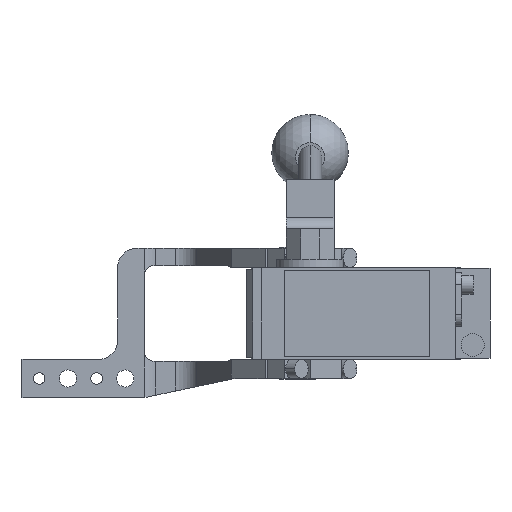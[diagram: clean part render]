
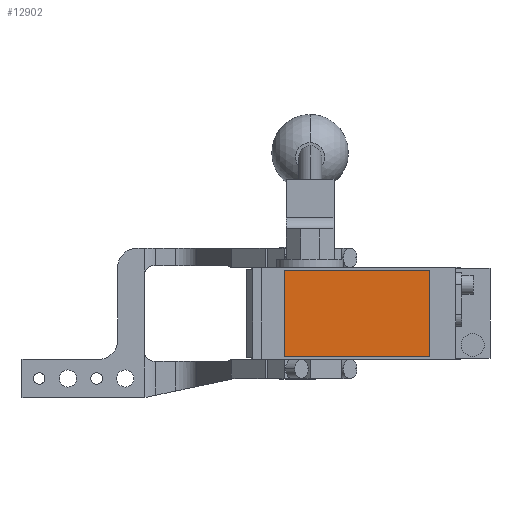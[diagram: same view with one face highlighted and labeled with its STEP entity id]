
A CAD part, front view. The second image highlights one B-rep face of the part: STEP entity #12902.
In plain terms, the highlighted planar face has unit normal (0, -1, 0).
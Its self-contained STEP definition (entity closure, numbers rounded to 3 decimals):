
#209 = CARTESIAN_POINT ( 'NONE',  ( -7., -280.5, -22.5 ) ) ;
#315 = VERTEX_POINT ( 'NONE', #857 ) ;
#554 = AXIS2_PLACEMENT_3D ( 'NONE', #4075, #4156, #13302 ) ;
#727 = PLANE ( 'NONE',  #554 ) ;
#857 = CARTESIAN_POINT ( 'NONE',  ( -7., -280.5, -22.5 ) ) ;
#1299 = VECTOR ( 'NONE', #3735, 1000. ) ;
#1350 = LINE ( 'NONE', #209, #5899 ) ;
#1949 = CARTESIAN_POINT ( 'NONE',  ( -7., -280.5, 22.5 ) ) ;
#2784 = VERTEX_POINT ( 'NONE', #3785 ) ;
#2788 = ORIENTED_EDGE ( 'NONE', *, *, #14797, .T. ) ;
#2806 = VECTOR ( 'NONE', #14203, 1000. ) ;
#2983 = EDGE_CURVE ( 'NONE', #9515, #315, #12163, .T. ) ;
#3333 = VECTOR ( 'NONE', #5299, 1000. ) ;
#3735 = DIRECTION ( 'NONE',  ( 0., 0., 1. ) ) ;
#3785 = CARTESIAN_POINT ( 'NONE',  ( 69., -280.5, 22.5 ) ) ;
#3954 = CARTESIAN_POINT ( 'NONE',  ( 69., -280.5, -22.5 ) ) ;
#4002 = ORIENTED_EDGE ( 'NONE', *, *, #9205, .T. ) ;
#4075 = CARTESIAN_POINT ( 'NONE',  ( 0., -280.5, 0. ) ) ;
#4156 = DIRECTION ( 'NONE',  ( 0., -1., 0. ) ) ;
#5299 = DIRECTION ( 'NONE',  ( 0., 0., -1. ) ) ;
#5899 = VECTOR ( 'NONE', #13007, 1000. ) ;
#5993 = ORIENTED_EDGE ( 'NONE', *, *, #2983, .T. ) ;
#7916 = EDGE_LOOP ( 'NONE', ( #5993, #13895, #4002, #2788 ) ) ;
#8509 = LINE ( 'NONE', #10919, #2806 ) ;
#9205 = EDGE_CURVE ( 'NONE', #13248, #2784, #10597, .T. ) ;
#9467 = CARTESIAN_POINT ( 'NONE',  ( 69., -280.5, 22.5 ) ) ;
#9515 = VERTEX_POINT ( 'NONE', #10255 ) ;
#10255 = CARTESIAN_POINT ( 'NONE',  ( -7., -280.5, 22.5 ) ) ;
#10597 = LINE ( 'NONE', #9467, #1299 ) ;
#10919 = CARTESIAN_POINT ( 'NONE',  ( -7., -280.5, 22.5 ) ) ;
#12163 = LINE ( 'NONE', #1949, #3333 ) ;
#12715 = EDGE_CURVE ( 'NONE', #315, #13248, #1350, .T. ) ;
#12902 = ADVANCED_FACE ( 'NONE', ( #14512 ), #727, .T. ) ;
#13007 = DIRECTION ( 'NONE',  ( 1., 0., 0. ) ) ;
#13248 = VERTEX_POINT ( 'NONE', #3954 ) ;
#13302 = DIRECTION ( 'NONE',  ( 0., 0., -1. ) ) ;
#13895 = ORIENTED_EDGE ( 'NONE', *, *, #12715, .T. ) ;
#14203 = DIRECTION ( 'NONE',  ( -1., 0., 0. ) ) ;
#14512 = FACE_OUTER_BOUND ( 'NONE', #7916, .T. ) ;
#14797 = EDGE_CURVE ( 'NONE', #2784, #9515, #8509, .T. ) ;
